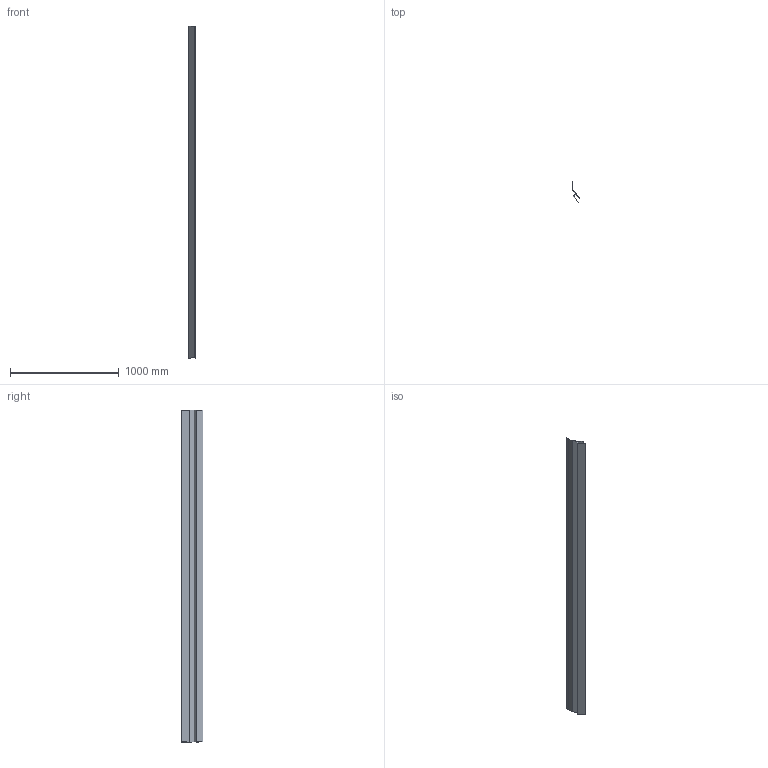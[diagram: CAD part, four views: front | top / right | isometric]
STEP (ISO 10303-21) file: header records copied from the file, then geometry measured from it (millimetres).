
FILE_DESCRIPTION (( 'STEP AP203' ), '1' );
FILE_NAME ('M61A.STEP', '2018-06-18T12:25:56', ( 'Michael Moliner' ), ( '' ), 'SwSTEP 2.0', 'SolidWorks 2018', '' );
FILE_SCHEMA (( 'CONFIG_CONTROL_DESIGN' ));
Length unit declared in the file: inch
Products named in the file (2): M61A
Bounding box: 65.55 x 194.07 x 3048 mm (x, y, z)
Volume: 559620.2 mm3; surface area: 2206443.7 mm2
Topology: 1 solids, 1 shells, 28 faces, 78 edges, 52 vertices
Faces by surface type: plane 20, cylinder 8
Entity records: 1055 total; most frequent: CARTESIAN_POINT 160, ORIENTED_EDGE 156, DIRECTION 154, EDGE_CURVE 78, LINE 62, VECTOR 62, VERTEX_POINT 52, AXIS2_PLACEMENT_3D 46
